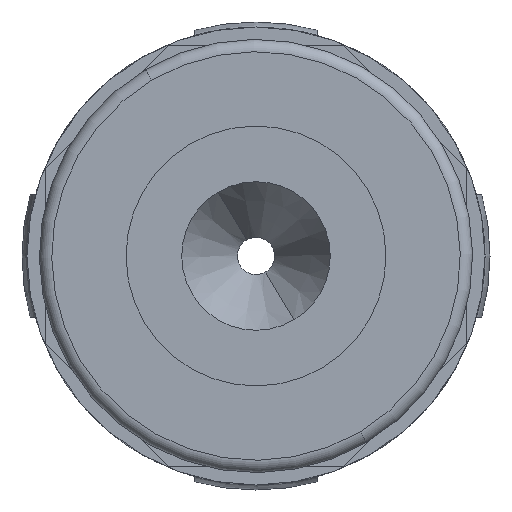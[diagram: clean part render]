
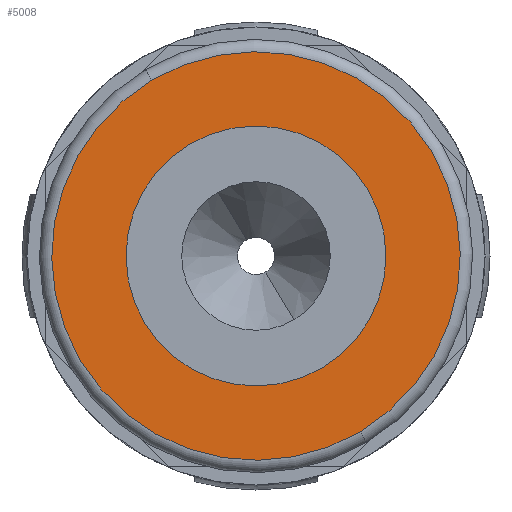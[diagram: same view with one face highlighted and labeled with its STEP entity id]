
A CAD part, front view. The second image highlights one B-rep face of the part: STEP entity #5008.
In plain terms, the highlighted planar face has unit normal (0, -1, 0) as drawn and (0, 1, 0) by its records, which use the part's own axes.
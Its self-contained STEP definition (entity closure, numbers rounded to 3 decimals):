
#296 = DIRECTION ( 'NONE',  ( 0., 0., -1. ) ) ;
#380 = DIRECTION ( 'NONE',  ( 0., 0., -1. ) ) ;
#1265 = AXIS2_PLACEMENT_3D ( 'NONE', #8559, #9731, #380 ) ;
#1414 = CARTESIAN_POINT ( 'NONE',  ( 0., 13.5, 0. ) ) ;
#1460 = ORIENTED_EDGE ( 'NONE', *, *, #5009, .F. ) ;
#1654 = AXIS2_PLACEMENT_3D ( 'NONE', #5081, #5062, #5050 ) ;
#1674 = EDGE_LOOP ( 'NONE', ( #14531, #1460 ) ) ;
#2089 = CIRCLE ( 'NONE', #8181, 10.5 ) ;
#2363 = VERTEX_POINT ( 'NONE', #9791 ) ;
#2622 = DIRECTION ( 'NONE',  ( 0., 0., 1. ) ) ;
#3009 = CARTESIAN_POINT ( 'NONE',  ( 0., 13.5, 16.5 ) ) ;
#3206 = CIRCLE ( 'NONE', #1265, 16.5 ) ;
#3530 = EDGE_CURVE ( 'NONE', #9500, #5099, #7493, .T. ) ;
#4901 = EDGE_CURVE ( 'NONE', #5706, #2363, #3206, .T. ) ;
#4948 = DIRECTION ( 'NONE',  ( 0., -1., 0. ) ) ;
#5008 = ADVANCED_FACE ( 'NONE', ( #5925, #5227 ), #8237, .F. ) ;
#5009 = EDGE_CURVE ( 'NONE', #5099, #9500, #2089, .T. ) ;
#5050 = DIRECTION ( 'NONE',  ( 0., 0., 1. ) ) ;
#5062 = DIRECTION ( 'NONE',  ( 0., 1., 0. ) ) ;
#5081 = CARTESIAN_POINT ( 'NONE',  ( 0., 13.5, 0. ) ) ;
#5099 = VERTEX_POINT ( 'NONE', #11919 ) ;
#5227 = FACE_BOUND ( 'NONE', #1674, .T. ) ;
#5304 = AXIS2_PLACEMENT_3D ( 'NONE', #14088, #7245, #296 ) ;
#5706 = VERTEX_POINT ( 'NONE', #3009 ) ;
#5925 = FACE_OUTER_BOUND ( 'NONE', #12910, .T. ) ;
#6107 = CARTESIAN_POINT ( 'NONE',  ( 0., 13.5, 10.5 ) ) ;
#6863 = CIRCLE ( 'NONE', #5304, 16.5 ) ;
#7245 = DIRECTION ( 'NONE',  ( 0., 1., 0. ) ) ;
#7493 = CIRCLE ( 'NONE', #1654, 10.5 ) ;
#7571 = ORIENTED_EDGE ( 'NONE', *, *, #4901, .T. ) ;
#8181 = AXIS2_PLACEMENT_3D ( 'NONE', #1414, #9452, #2622 ) ;
#8237 = PLANE ( 'NONE',  #8956 ) ;
#8559 = CARTESIAN_POINT ( 'NONE',  ( 0., 13.5, 0. ) ) ;
#8956 = AXIS2_PLACEMENT_3D ( 'NONE', #11717, #4948, #12870 ) ;
#9452 = DIRECTION ( 'NONE',  ( 0., 1., 0. ) ) ;
#9500 = VERTEX_POINT ( 'NONE', #6107 ) ;
#9731 = DIRECTION ( 'NONE',  ( 0., 1., 0. ) ) ;
#9791 = CARTESIAN_POINT ( 'NONE',  ( 0., 13.5, -16.5 ) ) ;
#11717 = CARTESIAN_POINT ( 'NONE',  ( 17.5, 13.5, 0. ) ) ;
#11919 = CARTESIAN_POINT ( 'NONE',  ( 0., 13.5, -10.5 ) ) ;
#12870 = DIRECTION ( 'NONE',  ( 0., 0., -1. ) ) ;
#12910 = EDGE_LOOP ( 'NONE', ( #12933, #7571 ) ) ;
#12933 = ORIENTED_EDGE ( 'NONE', *, *, #13580, .T. ) ;
#13580 = EDGE_CURVE ( 'NONE', #2363, #5706, #6863, .T. ) ;
#14088 = CARTESIAN_POINT ( 'NONE',  ( 0., 13.5, 0. ) ) ;
#14531 = ORIENTED_EDGE ( 'NONE', *, *, #3530, .F. ) ;
